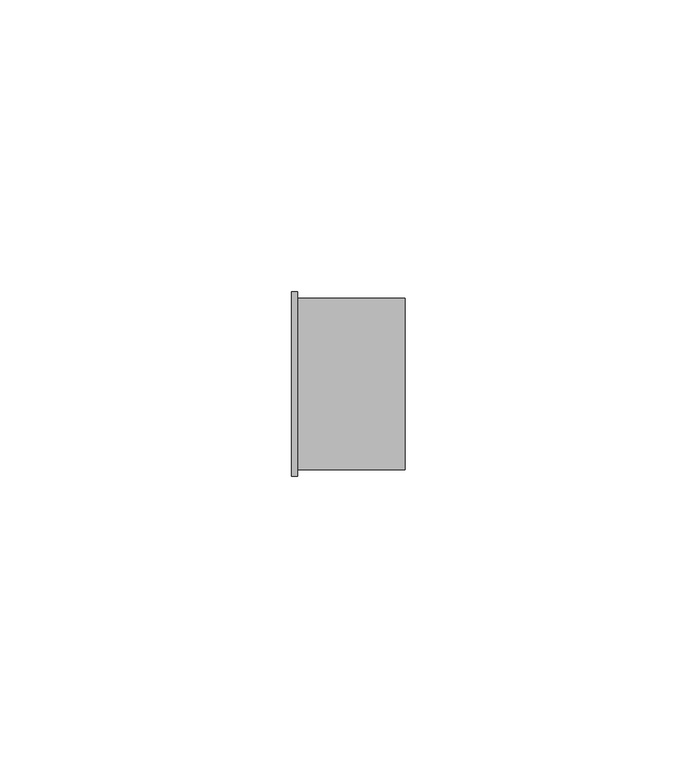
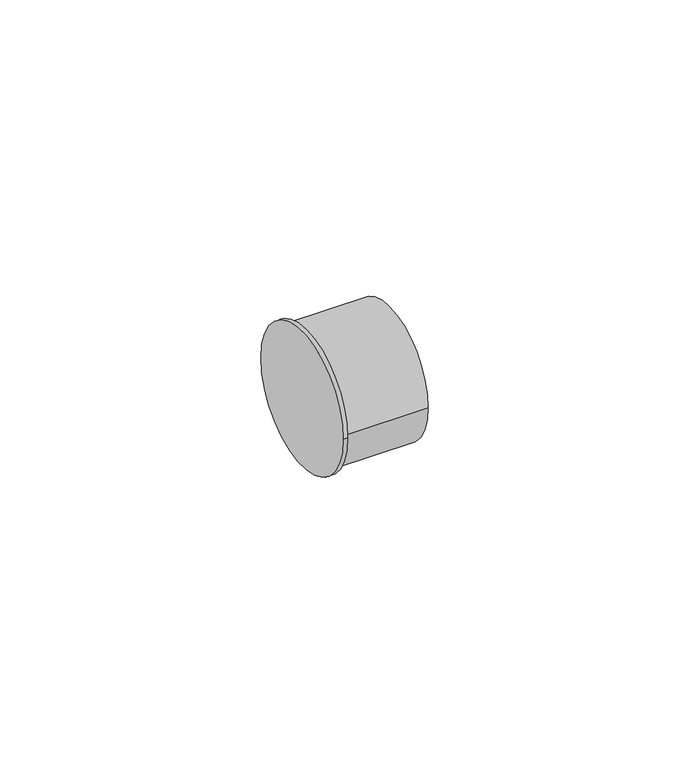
"""IFC4 building model written with IfcOpenShell, lengths in millimetres: pipe fitting geometry, Bucha de redução reta - Soldada - CU : Padrão."""

from ifc_helpers import new_model, si_unit, frame, origin, place, context, project, spatial, circle_curve, source, transform, mapped, element, save
from ifc_brep_helpers import plane_surface, cylinder_surface, advanced_brep


def pipe_fitting_41652c07(model_context):
    return source(origin(), model_context, "Body", "AdvancedBrep", [
        advanced_brep(
        [(0.0, -15.775, 0.0), (0.0, 15.775, 0.0), (1.0, -15.775, 0.0), (1.0, 15.775, 0.0), (1.0, -14.7, 0.0), (1.0, 14.7, 0.0), (19.4, -14.7, 0.0), (19.4, 14.7, 0.0)],
        [
            (0, 1, circle_curve(frame((0.0, 0.0, 0.0), z_axis=(-1.0, 0.0, 0.0), x_axis=(0.0, 1.0, 0.0)), 15.775)),
            (1, 0, circle_curve(frame((0.0, 0.0, 0.0), z_axis=(-1.0, 0.0, 0.0), x_axis=(0.0, 1.0, 0.0)), 15.775)),
            (2, 3, circle_curve(frame((1.0, 0.0, 0.0), z_axis=(1.0, 0.0, 0.0), x_axis=(0.0, 1.0, 0.0)), 15.775)),
            (3, 2, circle_curve(frame((1.0, 0.0, 0.0), z_axis=(1.0, 0.0, 0.0), x_axis=(0.0, 1.0, 0.0)), 15.775)),
            (4, 5, circle_curve(frame((1.0, 0.0, 0.0), z_axis=(-1.0, 0.0, 0.0), x_axis=(0.0, 1.0, 0.0)), 14.7)),
            (5, 4, circle_curve(frame((1.0, 0.0, 0.0), z_axis=(-1.0, 0.0, 0.0), x_axis=(0.0, 1.0, 0.0)), 14.7)),
            (0, 2),
            (3, 1),
            (6, 7, circle_curve(frame((19.4, 0.0, 0.0), z_axis=(1.0, 0.0, 0.0), x_axis=(0.0, 1.0, 0.0)), 14.7)),
            (7, 6, circle_curve(frame((19.4, 0.0, 0.0), z_axis=(1.0, 0.0, 0.0), x_axis=(0.0, 1.0, 0.0)), 14.7)),
            (7, 5),
            (4, 6),
        ],
        [
            plane_surface(frame((0.0, 0.0, 0.0), z_axis=(-1.0, 0.0, 0.0), x_axis=(0.0, 0.0, 1.0))),
            plane_surface(frame((1.0, 0.0, 0.0), z_axis=(1.0, 0.0, 0.0), x_axis=(0.0, 0.0, 1.0))),
            cylinder_surface(frame((0.0, 0.0, 0.0), z_axis=(-1.0, 0.0, 0.0), x_axis=(0.0, 1.0, 0.0)), 15.775),
            plane_surface(frame((19.4, 0.0, 0.0), z_axis=(1.0, 0.0, 0.0), x_axis=(0.0, 0.0, 1.0))),
            cylinder_surface(frame((1.0, 0.0, 0.0), z_axis=(-1.0, 0.0, 0.0), x_axis=(0.0, 1.0, 0.0)), 14.7),
        ],
        [
            (0, [[1, 2]]),
            (1, [[3, 4], [5, 6]]),
            (2, [[-1, 7, -4, 8]]),
            (2, [[-2, -8, -3, -7]]),
            (3, [[9, 10]]),
            (4, [[-10, 11, -5, 12]]),
            (4, [[-9, -12, -6, -11]]),
        ],
    ),
    ])


if __name__ == "__main__":
    model = new_model("IFC4")
    model_context = context("Model", 3, world=origin())
    ifc_project = project(units=[si_unit("LENGTHUNIT", "METRE", prefix="MILLI")], contexts=[model_context])
    site = spatial("IfcSite", under=ifc_project)
    building = spatial("IfcBuilding", under=site)
    placement = place(None, origin())
    pipe_fitting_shape = pipe_fitting_41652c07(model_context)
    element("IfcPipeFitting", 1, ObjectType="Bucha de redução reta - Soldada - CU : Padrão", at=placement, inside=building, context=model_context, shape_type="MappedRepresentation", body=[
        mapped(pipe_fitting_shape, transform((0.0, 0.0, 0.0), x_axis=(1.0, 0.0, 0.0), y_axis=(0.0, 1.0, 0.0), z_axis=(0.0, 0.0, 1.0))),
    ])
    save(model, "model.ifc")
